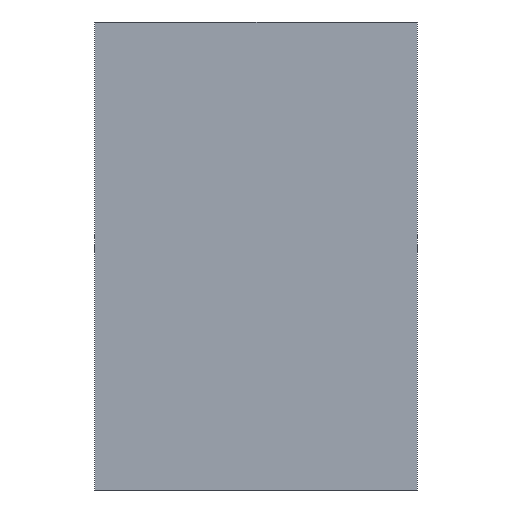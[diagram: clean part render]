
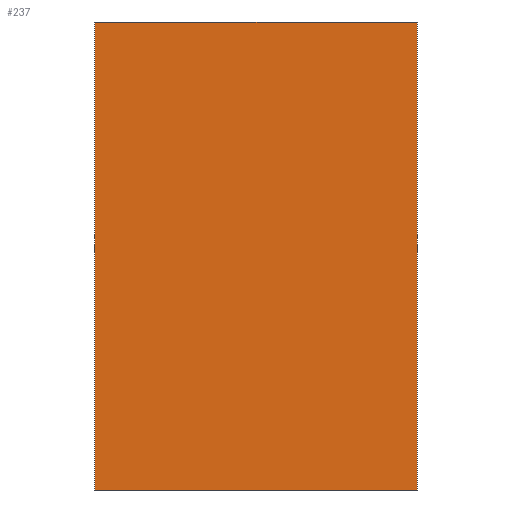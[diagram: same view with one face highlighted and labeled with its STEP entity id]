
A CAD part, front view. The second image highlights one B-rep face of the part: STEP entity #237.
In plain terms, the highlighted planar face has unit normal (0, -1, 0).
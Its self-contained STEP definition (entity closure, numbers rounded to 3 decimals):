
#21 = EDGE_CURVE('',#22,#24,#26,.T.);
#22 = VERTEX_POINT('',#23);
#23 = CARTESIAN_POINT('',(-332.,207.,18.));
#24 = VERTEX_POINT('',#25);
#25 = CARTESIAN_POINT('',(-332.,207.,982.));
#26 = SURFACE_CURVE('',#27,(#31,#43),.PCURVE_S1.);
#27 = LINE('',#28,#29);
#28 = CARTESIAN_POINT('',(-332.,207.,18.));
#29 = VECTOR('',#30,1.);
#30 = DIRECTION('',(0.,0.,1.));
#31 = PCURVE('',#32,#37);
#32 = PLANE('',#33);
#33 = AXIS2_PLACEMENT_3D('',#34,#35,#36);
#34 = CARTESIAN_POINT('',(-332.,207.,18.));
#35 = DIRECTION('',(1.,0.,0.));
#36 = DIRECTION('',(0.,0.,1.));
#37 = DEFINITIONAL_REPRESENTATION('',(#38),#42);
#38 = LINE('',#39,#40);
#39 = CARTESIAN_POINT('',(0.,0.));
#40 = VECTOR('',#41,1.);
#41 = DIRECTION('',(1.,0.));
#42 = ( GEOMETRIC_REPRESENTATION_CONTEXT(2) 
PARAMETRIC_REPRESENTATION_CONTEXT() REPRESENTATION_CONTEXT('2D SPACE',''
  ) );
#43 = PCURVE('',#44,#49);
#44 = PLANE('',#45);
#45 = AXIS2_PLACEMENT_3D('',#46,#47,#48);
#46 = CARTESIAN_POINT('',(-332.,207.,18.));
#47 = DIRECTION('',(0.,1.,0.));
#48 = DIRECTION('',(0.,0.,1.));
#49 = DEFINITIONAL_REPRESENTATION('',(#50),#54);
#50 = LINE('',#51,#52);
#51 = CARTESIAN_POINT('',(0.,0.));
#52 = VECTOR('',#53,1.);
#53 = DIRECTION('',(1.,0.));
#54 = ( GEOMETRIC_REPRESENTATION_CONTEXT(2) 
PARAMETRIC_REPRESENTATION_CONTEXT() REPRESENTATION_CONTEXT('2D SPACE',''
  ) );
#72 = PLANE('',#73);
#73 = AXIS2_PLACEMENT_3D('',#74,#75,#76);
#74 = CARTESIAN_POINT('',(-332.,207.,18.));
#75 = DIRECTION('',(0.,0.,1.));
#76 = DIRECTION('',(1.,0.,0.));
#126 = PLANE('',#127);
#127 = AXIS2_PLACEMENT_3D('',#128,#129,#130);
#128 = CARTESIAN_POINT('',(-332.,207.,982.));
#129 = DIRECTION('',(0.,0.,1.));
#130 = DIRECTION('',(1.,0.,0.));
#141 = EDGE_CURVE('',#142,#144,#146,.T.);
#142 = VERTEX_POINT('',#143);
#143 = CARTESIAN_POINT('',(332.,207.,18.));
#144 = VERTEX_POINT('',#145);
#145 = CARTESIAN_POINT('',(332.,207.,982.));
#146 = SURFACE_CURVE('',#147,(#151,#163),.PCURVE_S1.);
#147 = LINE('',#148,#149);
#148 = CARTESIAN_POINT('',(332.,207.,18.));
#149 = VECTOR('',#150,1.);
#150 = DIRECTION('',(0.,0.,1.));
#151 = PCURVE('',#152,#157);
#152 = PLANE('',#153);
#153 = AXIS2_PLACEMENT_3D('',#154,#155,#156);
#154 = CARTESIAN_POINT('',(332.,207.,18.));
#155 = DIRECTION('',(1.,0.,0.));
#156 = DIRECTION('',(0.,0.,1.));
#157 = DEFINITIONAL_REPRESENTATION('',(#158),#162);
#158 = LINE('',#159,#160);
#159 = CARTESIAN_POINT('',(0.,0.));
#160 = VECTOR('',#161,1.);
#161 = DIRECTION('',(1.,0.));
#162 = ( GEOMETRIC_REPRESENTATION_CONTEXT(2) 
PARAMETRIC_REPRESENTATION_CONTEXT() REPRESENTATION_CONTEXT('2D SPACE',''
  ) );
#163 = PCURVE('',#44,#164);
#164 = DEFINITIONAL_REPRESENTATION('',(#165),#169);
#165 = LINE('',#166,#167);
#166 = CARTESIAN_POINT('',(0.,664.));
#167 = VECTOR('',#168,1.);
#168 = DIRECTION('',(1.,0.));
#169 = ( GEOMETRIC_REPRESENTATION_CONTEXT(2) 
PARAMETRIC_REPRESENTATION_CONTEXT() REPRESENTATION_CONTEXT('2D SPACE',''
  ) );
#237 = ADVANCED_FACE('',(#238),#44,.F.);
#238 = FACE_BOUND('',#239,.F.);
#239 = EDGE_LOOP('',(#240,#261,#262,#283));
#240 = ORIENTED_EDGE('',*,*,#241,.F.);
#241 = EDGE_CURVE('',#22,#142,#242,.T.);
#242 = SURFACE_CURVE('',#243,(#247,#254),.PCURVE_S1.);
#243 = LINE('',#244,#245);
#244 = CARTESIAN_POINT('',(-332.,207.,18.));
#245 = VECTOR('',#246,1.);
#246 = DIRECTION('',(1.,0.,0.));
#247 = PCURVE('',#44,#248);
#248 = DEFINITIONAL_REPRESENTATION('',(#249),#253);
#249 = LINE('',#250,#251);
#250 = CARTESIAN_POINT('',(0.,0.));
#251 = VECTOR('',#252,1.);
#252 = DIRECTION('',(0.,1.));
#253 = ( GEOMETRIC_REPRESENTATION_CONTEXT(2) 
PARAMETRIC_REPRESENTATION_CONTEXT() REPRESENTATION_CONTEXT('2D SPACE',''
  ) );
#254 = PCURVE('',#72,#255);
#255 = DEFINITIONAL_REPRESENTATION('',(#256),#260);
#256 = LINE('',#257,#258);
#257 = CARTESIAN_POINT('',(0.,0.));
#258 = VECTOR('',#259,1.);
#259 = DIRECTION('',(1.,0.));
#260 = ( GEOMETRIC_REPRESENTATION_CONTEXT(2) 
PARAMETRIC_REPRESENTATION_CONTEXT() REPRESENTATION_CONTEXT('2D SPACE',''
  ) );
#261 = ORIENTED_EDGE('',*,*,#21,.T.);
#262 = ORIENTED_EDGE('',*,*,#263,.T.);
#263 = EDGE_CURVE('',#24,#144,#264,.T.);
#264 = SURFACE_CURVE('',#265,(#269,#276),.PCURVE_S1.);
#265 = LINE('',#266,#267);
#266 = CARTESIAN_POINT('',(-332.,207.,982.));
#267 = VECTOR('',#268,1.);
#268 = DIRECTION('',(1.,0.,0.));
#269 = PCURVE('',#44,#270);
#270 = DEFINITIONAL_REPRESENTATION('',(#271),#275);
#271 = LINE('',#272,#273);
#272 = CARTESIAN_POINT('',(964.,0.));
#273 = VECTOR('',#274,1.);
#274 = DIRECTION('',(0.,1.));
#275 = ( GEOMETRIC_REPRESENTATION_CONTEXT(2) 
PARAMETRIC_REPRESENTATION_CONTEXT() REPRESENTATION_CONTEXT('2D SPACE',''
  ) );
#276 = PCURVE('',#126,#277);
#277 = DEFINITIONAL_REPRESENTATION('',(#278),#282);
#278 = LINE('',#279,#280);
#279 = CARTESIAN_POINT('',(0.,0.));
#280 = VECTOR('',#281,1.);
#281 = DIRECTION('',(1.,0.));
#282 = ( GEOMETRIC_REPRESENTATION_CONTEXT(2) 
PARAMETRIC_REPRESENTATION_CONTEXT() REPRESENTATION_CONTEXT('2D SPACE',''
  ) );
#283 = ORIENTED_EDGE('',*,*,#141,.F.);
